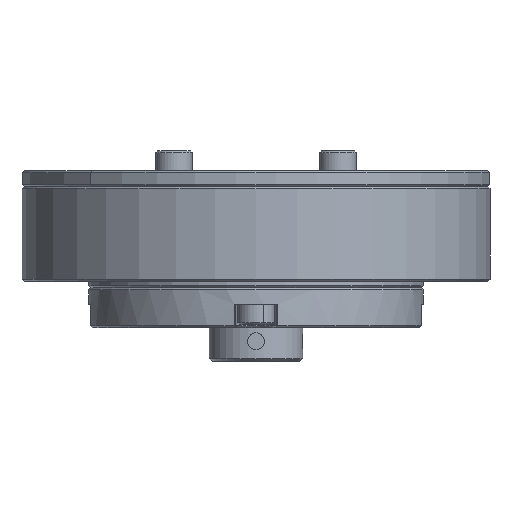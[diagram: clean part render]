
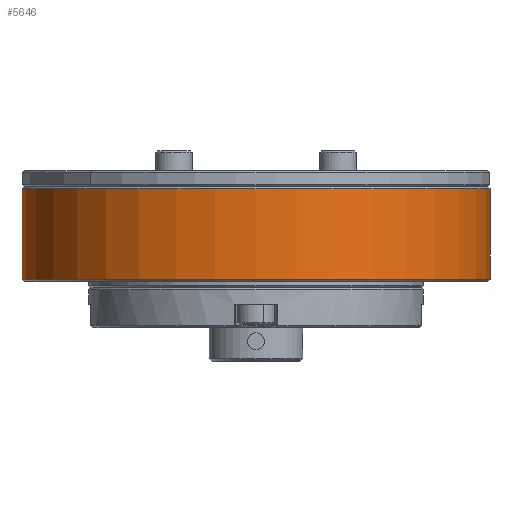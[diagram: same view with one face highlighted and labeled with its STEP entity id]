
A CAD part, front view. The second image highlights one B-rep face of the part: STEP entity #5646.
In plain terms, the highlighted cylindrical face has radius 35 mm (diameter 70 mm), a partial arc.
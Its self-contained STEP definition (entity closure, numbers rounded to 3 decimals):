
#282 = VERTEX_POINT ( 'NONE', #11768 ) ;
#735 = VERTEX_POINT ( 'NONE', #5727 ) ;
#1647 = EDGE_LOOP ( 'NONE', ( #7316, #9195, #7487, #7633 ) ) ;
#1745 = DIRECTION ( 'NONE',  ( 1., 0., 0. ) ) ;
#2324 = AXIS2_PLACEMENT_3D ( 'NONE', #7771, #7643, #7609 ) ;
#2860 = CIRCLE ( 'NONE', #2324, 35. ) ;
#2867 = CARTESIAN_POINT ( 'NONE',  ( -8.4, -4.886, 52.75 ) ) ;
#2902 = CARTESIAN_POINT ( 'NONE',  ( 26.6, -4.886, 52.75 ) ) ;
#3675 = DIRECTION ( 'NONE',  ( 0., 0., 1. ) ) ;
#4017 = VERTEX_POINT ( 'NONE', #5356 ) ;
#4564 = AXIS2_PLACEMENT_3D ( 'NONE', #5523, #5541, #5955 ) ;
#4844 = DIRECTION ( 'NONE',  ( 0., 0., 1. ) ) ;
#5148 = CARTESIAN_POINT ( 'NONE',  ( -43.4, -4.886, 66.55 ) ) ;
#5356 = CARTESIAN_POINT ( 'NONE',  ( -43.4, -4.886, 53.05 ) ) ;
#5523 = CARTESIAN_POINT ( 'NONE',  ( -8.4, -4.886, 66.55 ) ) ;
#5541 = DIRECTION ( 'NONE',  ( 0., 0., -1. ) ) ;
#5646 = ADVANCED_FACE ( 'NONE', ( #6016 ), #6887, .T. ) ;
#5727 = CARTESIAN_POINT ( 'NONE',  ( 26.6, -4.886, 53.05 ) ) ;
#5955 = DIRECTION ( 'NONE',  ( -1., 0., 0. ) ) ;
#6016 = FACE_OUTER_BOUND ( 'NONE', #1647, .T. ) ;
#6095 = EDGE_CURVE ( 'NONE', #4017, #735, #2860, .T. ) ;
#6245 = EDGE_CURVE ( 'NONE', #735, #282, #9921, .T. ) ;
#6324 = EDGE_CURVE ( 'NONE', #4017, #6737, #6946, .T. ) ;
#6737 = VERTEX_POINT ( 'NONE', #5148 ) ;
#6887 = CYLINDRICAL_SURFACE ( 'NONE', #7363, 35. ) ;
#6946 = LINE ( 'NONE', #9800, #7109 ) ;
#7109 = VECTOR ( 'NONE', #10816, 1000. ) ;
#7316 = ORIENTED_EDGE ( 'NONE', *, *, #6324, .F. ) ;
#7363 = AXIS2_PLACEMENT_3D ( 'NONE', #2867, #3675, #1745 ) ;
#7487 = ORIENTED_EDGE ( 'NONE', *, *, #6245, .T. ) ;
#7609 = DIRECTION ( 'NONE',  ( -1., 0., 0. ) ) ;
#7633 = ORIENTED_EDGE ( 'NONE', *, *, #8295, .T. ) ;
#7643 = DIRECTION ( 'NONE',  ( 0., 0., 1. ) ) ;
#7771 = CARTESIAN_POINT ( 'NONE',  ( -8.4, -4.886, 53.05 ) ) ;
#7865 = CIRCLE ( 'NONE', #4564, 35. ) ;
#8295 = EDGE_CURVE ( 'NONE', #282, #6737, #7865, .T. ) ;
#8809 = VECTOR ( 'NONE', #4844, 1000. ) ;
#9195 = ORIENTED_EDGE ( 'NONE', *, *, #6095, .T. ) ;
#9800 = CARTESIAN_POINT ( 'NONE',  ( -43.4, -4.886, 52.75 ) ) ;
#9921 = LINE ( 'NONE', #2902, #8809 ) ;
#10816 = DIRECTION ( 'NONE',  ( 0., 0., 1. ) ) ;
#11768 = CARTESIAN_POINT ( 'NONE',  ( 26.6, -4.886, 66.55 ) ) ;
